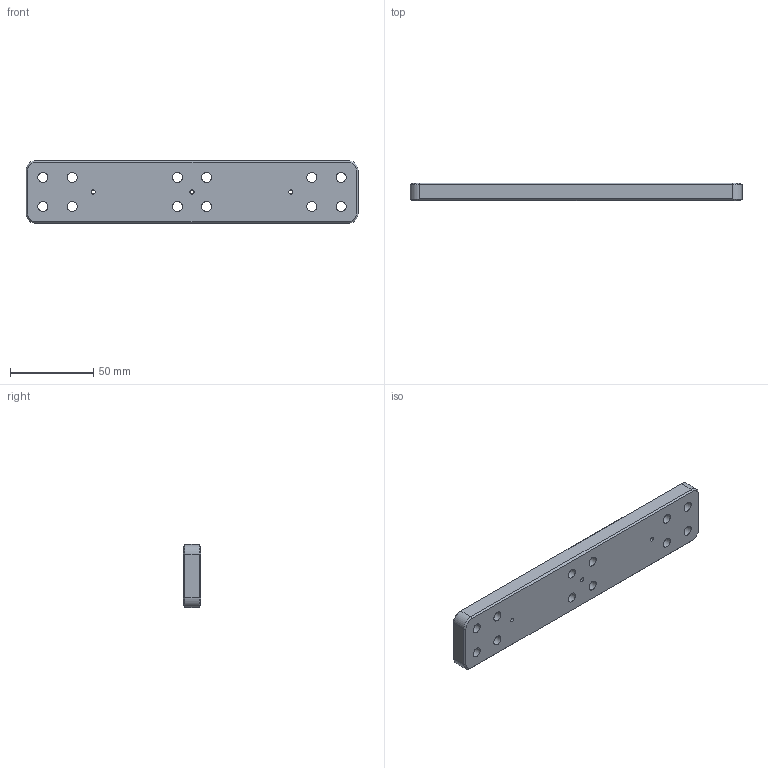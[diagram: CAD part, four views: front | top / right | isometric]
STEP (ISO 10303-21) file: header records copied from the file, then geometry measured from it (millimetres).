
FILE_DESCRIPTION(/* description */ (''),/* implementation_level */ '2;1');
FILE_NAME(/* name */ 'longPlate_v4.step',/* time_stamp */ '2023-03-04T10:55:29-08:00',/* author */ (''),/* organization */ (''),/* preprocessor_version */ 'ST-DEVELOPER v19.2',/* originating_system */ 'Autodesk Translation Framework v11.17.0.187',/* authorisation */ '');
FILE_SCHEMA (('AUTOMOTIVE_DESIGN { 1 0 10303 214 3 1 1 }'));
Length unit declared in the file: millimetre
Products named in the file (1): longPlate
Bounding box: 200 x 10.5 x 38 mm (x, y, z)
Volume: 72748.4 mm3; surface area: 22213.8 mm2
Topology: 1 solids, 1 shells, 71 faces, 146 edges, 92 vertices
Faces by surface type: cylinder 34, plane 29, cone 8
Full cylindrical faces by diameter (mm): 2.45 x3, 6 x12, 8 x12, 8.6 x3
Entity records: 1981 total; most frequent: DIRECTION 366, CARTESIAN_POINT 310, ORIENTED_EDGE 292, AXIS2_PLACEMENT_3D 148, EDGE_CURVE 146, EDGE_LOOP 116, VERTEX_POINT 92, CIRCLE 76
